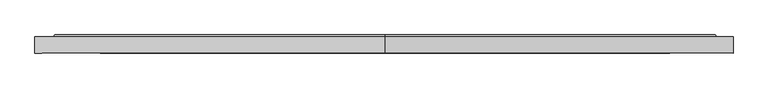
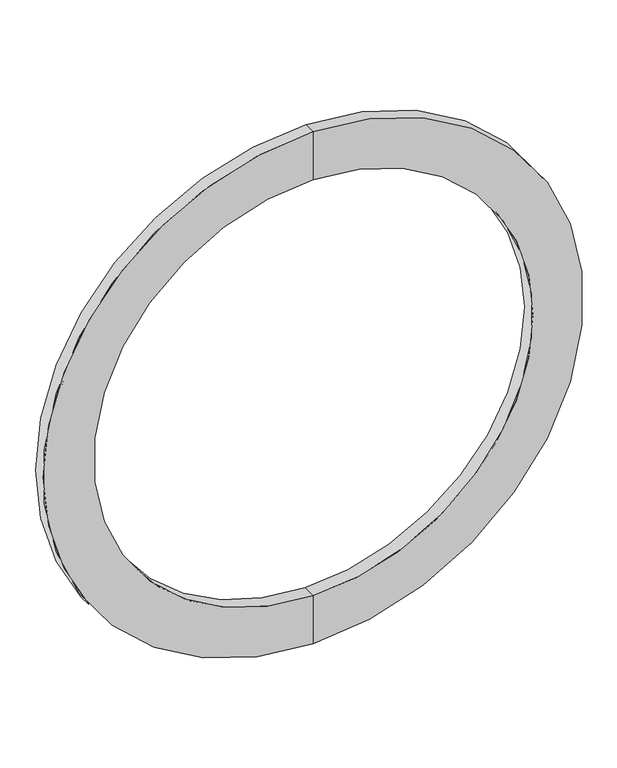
"""IFC4 building model written with IfcOpenShell, lengths in millimetres: pipe fitting geometry, Фланец : Фланец."""

from ifc_helpers import new_model, si_unit, frame, origin, place, context, project, spatial, polyline, circle_curve, source, transform, mapped, element, save
from ifc_brep_helpers import plane_surface, cylinder_surface, revolved_surface, advanced_brep


def pipe_fitting_62fc1cb5(model_context):
    return source(origin(), model_context, "Body", "AdvancedBrep", [
        advanced_brep(
        [(0.0, 0.0, -615.0), (0.0, 0.0, 615.0), (0.0, 28.7, 615.0), (0.0, 28.7, -615.0), (0.0, 0.0, -500.0), (0.0, 0.0, 500.0), (0.0, 31.7, -500.0), (0.0, 31.7, 500.0), (0.0, 31.7, -583.5), (0.0, 31.7, 583.5), (0.0, 28.7, -586.0), (0.0, 28.7, 586.0)],
        [
            (0, 1, circle_curve(frame((0.0, 0.0, 0.0), z_axis=(0.0, 1.0, 0.0), x_axis=(0.0, 0.0, 1.0)), 615.0)),
            (1, 2),
            (2, 3, circle_curve(frame((0.0, 28.7, 0.0), z_axis=(0.0, -1.0, 0.0), x_axis=(0.0, 0.0, 1.0)), 615.0)),
            (3, 0),
            (1, 0, circle_curve(frame((0.0, 0.0, 0.0), z_axis=(0.0, 1.0, 0.0), x_axis=(0.0, 0.0, 1.0)), 615.0)),
            (3, 2, circle_curve(frame((0.0, 28.7, 0.0), z_axis=(0.0, -1.0, 0.0), x_axis=(0.0, 0.0, 1.0)), 615.0)),
            (4, 5, circle_curve(frame((0.0, 0.0, 0.0), z_axis=(0.0, 1.0, 0.0), x_axis=(0.0, 0.0, 1.0)), 500.0)),
            (5, 1),
            (0, 4),
            (5, 4, circle_curve(frame((0.0, 0.0, 0.0), z_axis=(0.0, 1.0, 0.0), x_axis=(0.0, 0.0, 1.0)), 500.0)),
            (6, 7, circle_curve(frame((0.0, 31.7, 0.0), z_axis=(0.0, 1.0, 0.0), x_axis=(0.0, 0.0, 1.0)), 500.0)),
            (7, 5),
            (4, 6),
            (7, 6, circle_curve(frame((0.0, 31.7, 0.0), z_axis=(0.0, 1.0, 0.0), x_axis=(0.0, 0.0, 1.0)), 500.0)),
            (8, 9, circle_curve(frame((0.0, 31.7, 0.0), z_axis=(0.0, 1.0, 0.0), x_axis=(0.0, 0.0, 1.0)), 583.5)),
            (9, 7),
            (6, 8),
            (9, 8, circle_curve(frame((0.0, 31.7, 0.0), z_axis=(0.0, 1.0, 0.0), x_axis=(0.0, 0.0, 1.0)), 583.5)),
            (10, 11, circle_curve(frame((0.0, 28.7, 0.0), z_axis=(0.0, 1.0, 0.0), x_axis=(0.0, 0.0, 1.0)), 586.0)),
            (11, 9),
            (8, 10),
            (11, 10, circle_curve(frame((0.0, 28.7, 0.0), z_axis=(0.0, 1.0, 0.0), x_axis=(0.0, 0.0, 1.0)), 586.0)),
            (2, 11),
            (10, 3),
        ],
        [
            cylinder_surface(frame((0.0, -60.0, 0.0), z_axis=(0.0, -1.0, 0.0), x_axis=(0.0, 0.0, 1.0)), 615.0),
            plane_surface(frame((0.0, 0.0, 0.0), z_axis=(0.0, -1.0, 0.0), x_axis=(0.0, 0.0, 1.0))),
            revolved_surface(polyline([(0.0, 0.0, 500.0), (0.0, 31.700000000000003, 500.0)]), (0.0, -60.0, 0.0), (0.0, -1.0, 0.0)),
            plane_surface(frame((0.0, 31.7, 0.0), z_axis=(0.0, 1.0, 0.0), x_axis=(0.0, 0.0, 1.0))),
            revolved_surface(polyline([(0.0, 31.7, 583.5), (0.0, 28.7, 586.0)]), (0.0, -60.0, 0.0), (0.0, -1.0, 0.0)),
            plane_surface(frame((0.0, 28.7, 0.0), z_axis=(0.0, 1.0, 0.0), x_axis=(0.0, 0.0, 1.0))),
        ],
        [
            (0, [[1, 2, 3, 4]]),
            (0, [[5, -4, 6, -2]]),
            (1, [[7, 8, -1, 9]]),
            (1, [[10, -9, -5, -8]]),
            (2, [[11, 12, -7, 13]]),
            (2, [[14, -13, -10, -12]]),
            (3, [[15, 16, -11, 17]]),
            (3, [[18, -17, -14, -16]]),
            (4, [[19, 20, -15, 21]]),
            (4, [[22, -21, -18, -20]]),
            (5, [[-3, 23, -19, 24]]),
            (5, [[-6, -24, -22, -23]]),
        ],
    ),
    ])


if __name__ == "__main__":
    model = new_model("IFC4")
    model_context = context("Model", 3, world=origin())
    ifc_project = project(units=[si_unit("LENGTHUNIT", "METRE", prefix="MILLI")], contexts=[model_context])
    site = spatial("IfcSite", under=ifc_project)
    building = spatial("IfcBuilding", under=site)
    placement = place(None, origin())
    pipe_fitting_shape = pipe_fitting_62fc1cb5(model_context)
    element("IfcPipeFitting", 1, ObjectType="Фланец : Фланец", at=placement, inside=building, context=model_context, shape_type="MappedRepresentation", body=[
        mapped(pipe_fitting_shape, transform((0.0, 0.0, 0.0), x_axis=(1.0, 0.0, 0.0), y_axis=(0.0, 1.0, 0.0), z_axis=(0.0, 0.0, 1.0))),
    ])
    save(model, "model.ifc")
